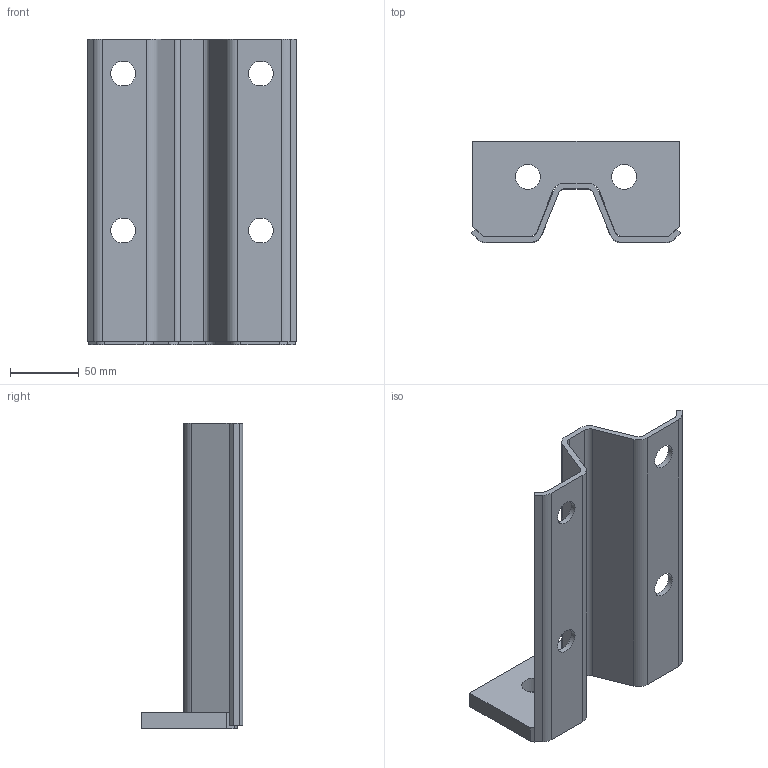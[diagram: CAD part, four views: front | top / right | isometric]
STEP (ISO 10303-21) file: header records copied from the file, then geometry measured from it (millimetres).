
FILE_DESCRIPTION(/* description */ (''),/* implementation_level */ '2;1');
FILE_NAME(/* name */ 'B265W70.stp',/* time_stamp */ '2023-07-03T11:10:29+02:00',/* author */ ('woriedl'),/* organization */ (''),/* preprocessor_version */ 'ST-DEVELOPER v19.2',/* originating_system */ 'AutoCAD Mechanical',/* authorisation */ '');
FILE_SCHEMA (('AUTOMOTIVE_DESIGN { 1 0 10303 214 3 1 1 }'));
Length unit declared in the file: centimetre
Products named in the file (1): Product
Bounding box: 151.72 x 74 x 222 mm (x, y, z)
Volume: 271161.8 mm3; surface area: 112893.7 mm2
Topology: 1 solids, 1 shells, 54 faces, 162 edges, 106 vertices
Faces by surface type: plane 30, cylinder 24
Full cylindrical faces by diameter (mm): 18 x6
Entity records: 1881 total; most frequent: ORIENTED_EDGE 324, CARTESIAN_POINT 323, DIRECTION 320, EDGE_CURVE 162, LINE 114, VECTOR 114, VERTEX_POINT 106, AXIS2_PLACEMENT_3D 103
